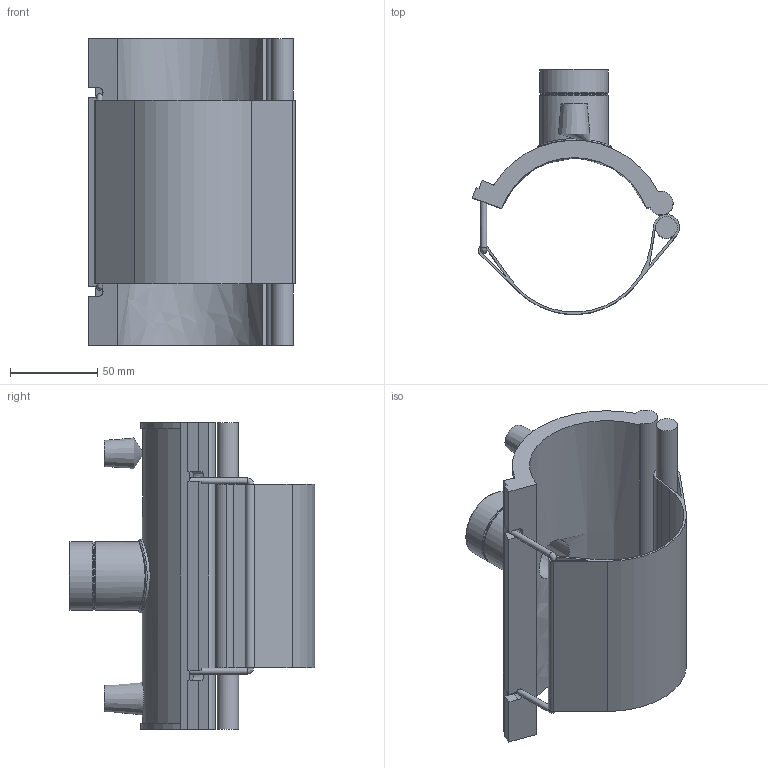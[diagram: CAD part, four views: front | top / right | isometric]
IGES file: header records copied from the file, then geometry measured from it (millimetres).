
Global section: file name: 5938B00303060.ipt; native system: Autodesk Inventor 2019; preprocessor: unknown; author: KIM; date: 20210830.101052; units: inch
Bounding box: 118.87 x 140.74 x 176.02 mm (x, y, z)
Volume: 296367.7 mm3; surface area: 118422.7 mm2
Topology: 1 solids, 2 shells, 78 faces, 198 edges, 128 vertices
Faces by surface type: plane 42, cylinder 19, revolution 11, cone 5, bspline 1
Full cylindrical faces by diameter (mm): 3.548 x2, 4 x2, 12.35 x1, 38.378 x1, 39.378 x2, 42.407 x1
